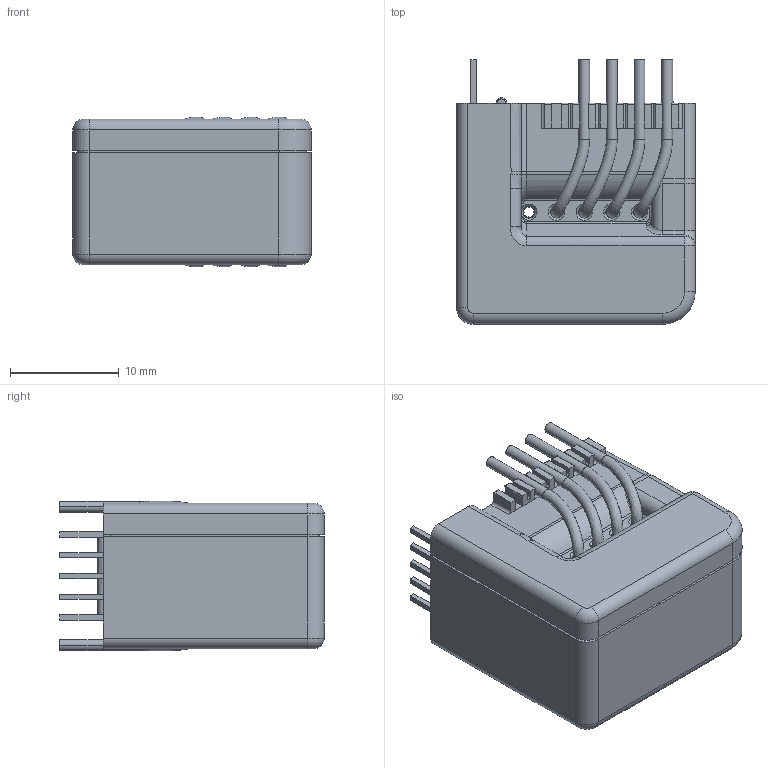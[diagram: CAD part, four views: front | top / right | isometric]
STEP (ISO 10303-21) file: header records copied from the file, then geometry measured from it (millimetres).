
FILE_DESCRIPTION(('Creo Elements/Direct Modeling STEP Export'),'2;1');
FILE_NAME('LPSR.stp','2017-03-23T 9:29:52',(''),(''),'PTC Creo Elements/Direct Modeling STEP processor for AP214 (Solid Model)','PTC Creo Elements/Direct Modeling 19.0B 21-Mar-2015 (C) Parametric Technology GmbH','');
FILE_SCHEMA(('AUTOMOTIVE_DESIGN { 1 0 10303 214 1 1 1 1 }'));
Length unit declared in the file: millimetre
Products named in the file (2): BBox_Outline_A
Assembly tree (1 placements, depth 2):
  BBox_Outline_A
    BBox_Outline_A
Bounding box: 21.92 x 24.3 x 13.76 mm (x, y, z)
Volume: 5461.4 mm3; surface area: 2808.1 mm2
Topology: 1 solids, 1 shells, 654 faces, 1806 edges, 1162 vertices
Faces by surface type: plane 365, cylinder 184, bspline 55, cone 28, torus 16, extrusion 4, sphere 2
Entity records: 30940 total; most frequent: CARTESIAN_POINT 15277, ORIENTED_EDGE 3604, DIRECTION 2800, EDGE_CURVE 1802, VERTEX_POINT 1162, VECTOR 1142, LINE 1138, AXIS2_PLACEMENT_3D 829
